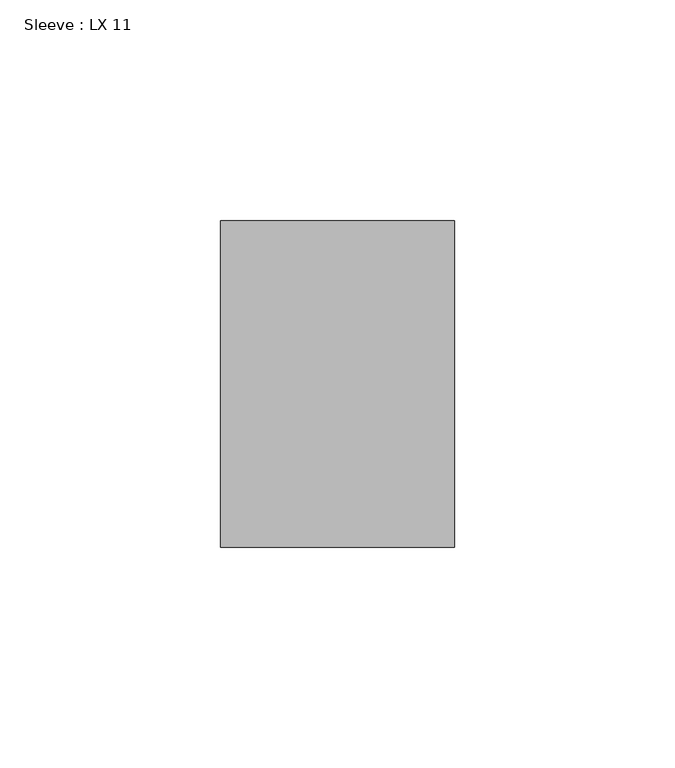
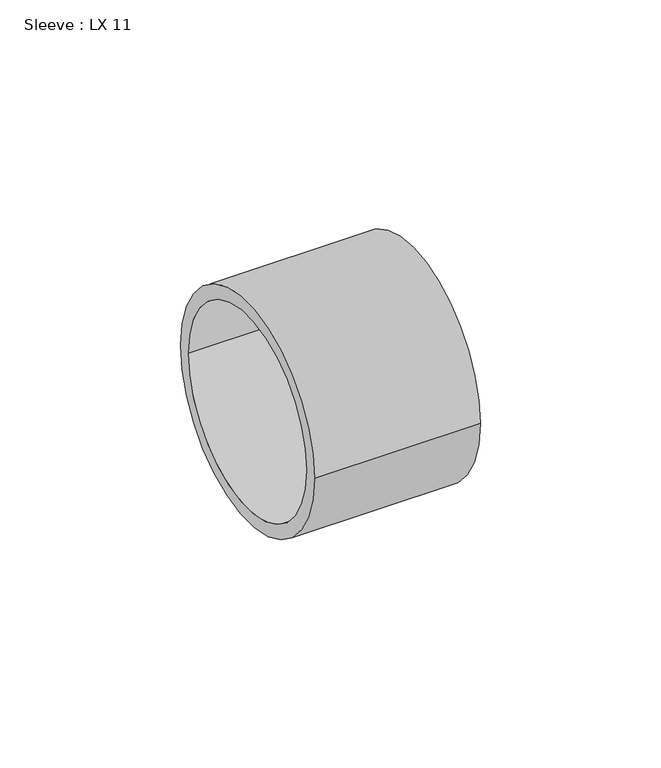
"""IFC4 building model written with IfcOpenShell, lengths in millimetres: pipe fitting geometry, Sleeve : LX 11."""

import ifcopenshell
import ifcopenshell.guid

model = None  # the IFC model being written
_history = None  # IfcOwnerHistory: only IFC2X3 demands one
_inside = {}  # id of a spatial element -> (the spatial element, [elements in it])
_under = {}  # id of a project, library or spatial element -> (it, [spatial elements below it])
_declared = {}  # id of a project -> (the project, [libraries it declares])
_typed = {}  # id of a type object -> (the type object, [elements of that type])
_made_of = {}  # id of a material, layer set ... -> (it, [elements and type objects made of it])


def new_model(schema):
    """Start an empty IFC model of exactly this schema.

    Asked for "IFC4X3", IfcOpenShell would pick the latest addendum, in which some entities
    have other attributes; the version numbers below select the first issue.
    IFC2X3 requires an IfcOwnerHistory on every rooted entity: one is made here for all.
    """
    global model, _history
    if schema == "IFC4X3":
        model = ifcopenshell.file(schema_version=(4, 3, 0, 0))
    else:
        model = ifcopenshell.file(schema=schema)
    _inside.clear()
    _under.clear()
    _declared.clear()
    _typed.clear()
    _made_of.clear()
    _history = None
    if model.schema == "IFC2X3":
        org = make("IfcOrganization", Name="unknown")
        user = make(
            "IfcPersonAndOrganization",
            ThePerson=make("IfcPerson", FamilyName="unknown"),
            TheOrganization=org,
        )
        app = make(
            "IfcApplication",
            ApplicationDeveloper=org,
            Version="unknown",
            ApplicationFullName="unknown",
            ApplicationIdentifier="unknown",
        )
        _history = make(
            "IfcOwnerHistory",
            OwningUser=user,
            OwningApplication=app,
            ChangeAction="ADDED",
            CreationDate=0,
        )
    return model


def make(cls, **values):
    """One entity of the class cls with the attributes given. An attribute that is None is left unset."""
    return model.create_entity(
        cls, **{name: value for name, value in values.items() if value is not None}
    )


def rooted(cls, **values):
    """An entity with a GlobalId (a new one), such as an element, a storey or a relation."""
    return make(cls, GlobalId=ifcopenshell.guid.new(), OwnerHistory=_history, **values)


def si_unit(unit_type, name, prefix=None):
    """IfcSIUnit, for example si_unit("LENGTHUNIT", "METRE", prefix="MILLI")."""
    return make("IfcSIUnit", UnitType=unit_type, Prefix=prefix, Name=name)


def assignment(units):
    """IfcUnitAssignment: the units of a project."""
    return None if units is None else make("IfcUnitAssignment", Units=units)


def point(xyz):
    """IfcCartesianPoint."""
    return None if xyz is None else make("IfcCartesianPoint", Coordinates=xyz)


def direction(xyz):
    """IfcDirection."""
    return None if xyz is None else make("IfcDirection", DirectionRatios=xyz)


def frame(location, z_axis=None, x_axis=None):
    """IfcAxis2Placement3D, a coordinate frame: its origin and axes. An axis left out is left unset."""
    return make(
        "IfcAxis2Placement3D",
        Location=point(location),
        Axis=direction(z_axis),
        RefDirection=direction(x_axis),
    )


def frame_2d(location, x_axis=None):
    """IfcAxis2Placement2D, a coordinate frame in the plane: its origin and x axis."""
    return make(
        "IfcAxis2Placement2D", Location=point(location), RefDirection=direction(x_axis)
    )


def origin():
    """The frame at (0, 0, 0) with its axes left unset."""
    return frame((0.0, 0.0, 0.0))


def origin_2d():
    """The frame at (0, 0) in the plane with its x axis left unset."""
    return frame_2d((0.0, 0.0))


def place(relative_to, where):
    """IfcLocalPlacement: puts the frame where relative to a parent placement (None: the world)."""
    return make(
        "IfcLocalPlacement", PlacementRelTo=relative_to, RelativePlacement=where
    )


def context(
    kind, dimensions, precision=None, world=None, true_north=None, identifier=None
):
    """IfcGeometricRepresentationContext, for example the 3D "Model" context."""
    return make(
        "IfcGeometricRepresentationContext",
        ContextIdentifier=identifier,
        ContextType=kind,
        CoordinateSpaceDimension=dimensions,
        Precision=precision,
        WorldCoordinateSystem=world,
        TrueNorth=true_north,
    )


def project(units=None, contexts=None):
    """IfcProject with its units and contexts."""
    return rooted(
        "IfcProject",
        Name="project",
        RepresentationContexts=contexts,
        UnitsInContext=assignment(units),
    )


def spatial(cls, under=None, at=None, **own):
    """A site, building, storey or space (cls), placed at a placement, below another one or the project."""
    s = rooted(cls, ObjectPlacement=at, **own)
    if under is not None:
        _under.setdefault(under.id(), (under, []))[1].append(s)
    return s


def circle_curve(where, radius):
    """IfcCircle in the frame where."""
    return make("IfcCircle", Position=where, Radius=radius)


def trimmed(basis, trim1, trim2, sense, master):
    """IfcTrimmedCurve: the piece of a basis curve between two trims."""
    return make(
        "IfcTrimmedCurve",
        BasisCurve=basis,
        Trim1=trim1,
        Trim2=trim2,
        SenseAgreement=sense,
        MasterRepresentation=master,
    )


def segment(curve, same_sense, transition):
    """IfcCompositeCurveSegment."""
    return make(
        "IfcCompositeCurveSegment",
        Transition=transition,
        SameSense=same_sense,
        ParentCurve=curve,
    )


def composite_curve(segments, self_intersect=None):
    """IfcCompositeCurve: segments joined end to end."""
    return make("IfcCompositeCurve", Segments=segments, SelfIntersect=self_intersect)


def outline(outer, holes=None, kind="AREA"):
    """IfcArbitraryClosedProfileDef: a profile drawn as a closed curve; with holes, ...WithVoids."""
    if holes is None:
        return make("IfcArbitraryClosedProfileDef", ProfileType=kind, OuterCurve=outer)
    return make(
        "IfcArbitraryProfileDefWithVoids",
        ProfileType=kind,
        OuterCurve=outer,
        InnerCurves=holes,
    )


def extrude(swept, where, along, depth):
    """IfcExtrudedAreaSolid: the profile swept, set in the frame where, extruded along a direction by depth."""
    return make(
        "IfcExtrudedAreaSolid",
        SweptArea=swept,
        Position=where,
        ExtrudedDirection=direction(along),
        Depth=depth,
    )


def shape(context_of_items, identifier, shape_type, items):
    """IfcShapeRepresentation: the items that make up one representation, for example the "Body"."""
    return make(
        "IfcShapeRepresentation",
        ContextOfItems=context_of_items,
        RepresentationIdentifier=identifier,
        RepresentationType=shape_type,
        Items=items,
    )


def source(mapping_origin, context_of_items, identifier, shape_type, items):
    """IfcRepresentationMap: a shape defined once, which mapped items show again and again."""
    return make(
        "IfcRepresentationMap",
        MappingOrigin=mapping_origin,
        MappedRepresentation=shape(context_of_items, identifier, shape_type, items),
    )


def transform(
    local_origin,
    x_axis=None,
    y_axis=None,
    z_axis=None,
    scale=None,
    scale2=None,
    scale3=None,
    uniform=True,
):
    """IfcCartesianTransformationOperator3D, or its non-uniform kind. x_axis, y_axis, z_axis: its Axis1, 2, 3."""
    if uniform:
        return make(
            "IfcCartesianTransformationOperator3D",
            Axis1=direction(x_axis),
            Axis2=direction(y_axis),
            LocalOrigin=point(local_origin),
            Scale=scale,
            Axis3=direction(z_axis),
        )
    return make(
        "IfcCartesianTransformationOperator3DnonUniform",
        Axis1=direction(x_axis),
        Axis2=direction(y_axis),
        LocalOrigin=point(local_origin),
        Scale=scale,
        Axis3=direction(z_axis),
        Scale2=scale2,
        Scale3=scale3,
    )


def mapped(mapping_source, mapping_target):
    """IfcMappedItem: shows the shape of a source again, moved by a transform."""
    return make(
        "IfcMappedItem", MappingSource=mapping_source, MappingTarget=mapping_target
    )


def made_of(thing, what):
    """Note that an element or type object is made of a material, layer set ...; save() writes the relation."""
    if what is not None:
        _made_of.setdefault(what.id(), (what, []))[1].append(thing)
    return thing


def element(
    cls,
    number,
    at=None,
    inside=None,
    cuts=None,
    type_object=None,
    material=None,
    context=None,
    identifier="Body",
    shape_type=None,
    held_by="IfcProductDefinitionShape",
    body=None,
    shapes=None,
    **own,
):
    """One element of the class cls, such as IfcWall. Its Tag is "e" and its number.

    at: its placement. inside: the storey or other place that contains it. cuts: it is an
    opening in that element (IfcRelVoidsElement). A single representation is given by context,
    identifier, shape_type and body (its items); several are given by shapes. held_by: the class
    of the entity that holds the representations. save() writes the other relations.
    """
    e = rooted(cls, Tag="e%d" % number, ObjectPlacement=at, **own)
    if body is not None:
        shapes = [shape(context, identifier, shape_type, body)]
    if shapes is not None:
        e.Representation = make(held_by, Representations=shapes)
    if inside is not None:
        _inside.setdefault(inside.id(), (inside, []))[1].append(e)
    if cuts is not None:
        rooted(
            "IfcRelVoidsElement", RelatingBuildingElement=cuts, RelatedOpeningElement=e
        )
    if type_object is not None:
        _typed.setdefault(type_object.id(), (type_object, []))[1].append(e)
    return made_of(e, material)


def aggregate(whole, parts):
    """IfcRelAggregates: a whole, such as a stair, and the parts it consists of."""
    return rooted("IfcRelAggregates", RelatingObject=whole, RelatedObjects=parts)


def save(model, path):
    """Write the relations noted so far, then the file.

    IfcRelAggregates (storeys below a building ...), IfcRelContainedInSpatialStructure (elements
    in a storey), IfcRelDefinesByType, IfcRelAssociatesMaterial and IfcRelDeclares: one each for
    every whole, place, type object, material and project.
    """
    for whole, parts in _under.values():
        aggregate(whole, parts)
    for where, things in _inside.values():
        rooted(
            "IfcRelContainedInSpatialStructure",
            RelatedElements=things,
            RelatingStructure=where,
        )
    for kind, things in _typed.values():
        rooted("IfcRelDefinesByType", RelatedObjects=things, RelatingType=kind)
    for what, things in _made_of.values():
        rooted("IfcRelAssociatesMaterial", RelatedObjects=things, RelatingMaterial=what)
    for by, libraries in _declared.values():
        rooted("IfcRelDeclares", RelatingContext=by, RelatedDefinitions=libraries)
    model.write(path)


def sleeve_lx_11_77a95bf2(model_context):
    return source(origin(), model_context, "Body", "SweptSolid", [
        extrude(outline(composite_curve([segment(trimmed(circle_curve(origin_2d(), 37.0), [point((37.0, 0.0))], [point((-37.0, 0.0))], False, "CARTESIAN"), True, "CONTINUOUS"), segment(trimmed(circle_curve(origin_2d(), 37.0), [point((-37.0, 0.0))], [point((37.0, 0.0))], False, "CARTESIAN"), True, "CONTINUOUS")], self_intersect=False), holes=[composite_curve([segment(trimmed(circle_curve(origin_2d(), 32.55), [point((32.55, 0.0))], [point((-32.55, 0.0))], True, "CARTESIAN"), True, "CONTINUOUS"), segment(trimmed(circle_curve(origin_2d(), 32.55), [point((-32.55, 0.0))], [point((32.55, 0.0))], True, "CARTESIAN"), True, "CONTINUOUS")], self_intersect=False)]), frame((0.0, 0.0, 0.0), z_axis=(1.0, 0.0, 0.0), x_axis=(0.0, 1.0, 0.0)), (0.0, 0.0, 1.0), 53.0),
    ])


if __name__ == "__main__":
    model = new_model("IFC4")
    model_context = context("Model", 3, world=origin())
    ifc_project = project(units=[si_unit("LENGTHUNIT", "METRE", prefix="MILLI")], contexts=[model_context])
    site = spatial("IfcSite", under=ifc_project)
    building = spatial("IfcBuilding", under=site)
    placement = place(None, origin())
    sleeve_lx_11_shape = sleeve_lx_11_77a95bf2(model_context)
    element("IfcPipeFitting", 1, ObjectType="Sleeve : LX 11", at=placement, inside=building, context=model_context, shape_type="MappedRepresentation", body=[
        mapped(sleeve_lx_11_shape, transform((0.0, 0.0, 0.0), x_axis=(1.0, 0.0, 0.0), y_axis=(0.0, 1.0, 0.0), z_axis=(0.0, 0.0, 1.0))),
    ])
    save(model, "model.ifc")
